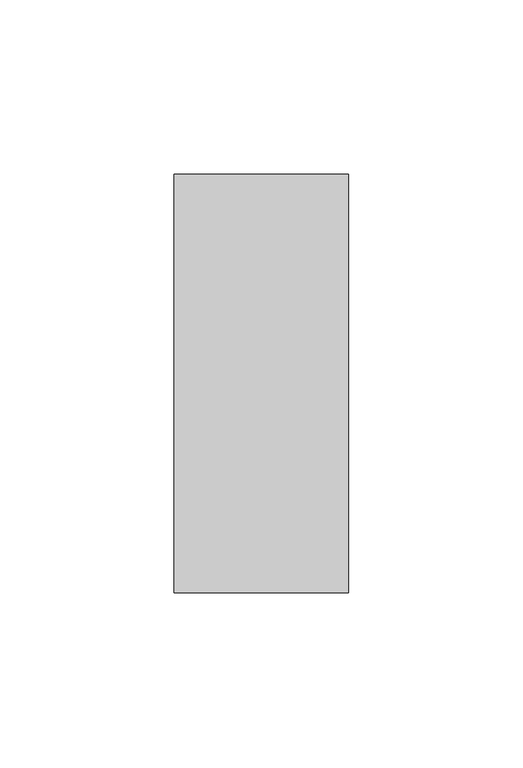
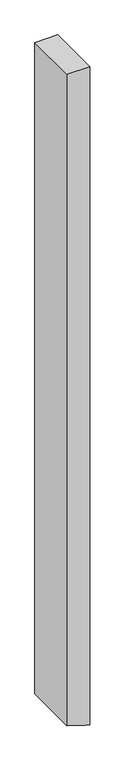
"""IFC4 building model written with IfcOpenShell, lengths in millimetres: member geometry, Прямоугольный импост : 50х120 мм."""

from ifc_helpers import new_model, si_unit, frame, origin, place, context, project, spatial, polyline, outline, extrude, source, transform, mapped, element, save


def member_4296cfb2(model_context):
    return source(origin(), model_context, "Body", "SweptSolid", [
        extrude(outline(polyline([(0.0, 25.0), (0.0, -25.0), (-1499.0464348, -25.0), (-1512.1897126, 15.4508497), (-1515.2924196, 25.0), (0.0, 25.0)])), frame((0.0, -60.0, 0.0), z_axis=(0.0, 1.0, 0.0), x_axis=(0.0, 0.0, 1.0)), (0.0, 0.0, 1.0), 120.0),
    ])


if __name__ == "__main__":
    model = new_model("IFC4")
    model_context = context("Model", 3, world=origin())
    ifc_project = project(units=[si_unit("LENGTHUNIT", "METRE", prefix="MILLI")], contexts=[model_context])
    site = spatial("IfcSite", under=ifc_project)
    building = spatial("IfcBuilding", under=site)
    placement = place(None, origin())
    member_shape = member_4296cfb2(model_context)
    element("IfcMember", 1, ObjectType="Прямоугольный импост : 50х120 мм", at=placement, inside=building, context=model_context, shape_type="MappedRepresentation", body=[
        mapped(member_shape, transform((0.0, 0.0, 0.0), x_axis=(1.0, 0.0, 0.0), y_axis=(0.0, 1.0, 0.0), z_axis=(0.0, 0.0, 1.0))),
    ])
    save(model, "model.ifc")
